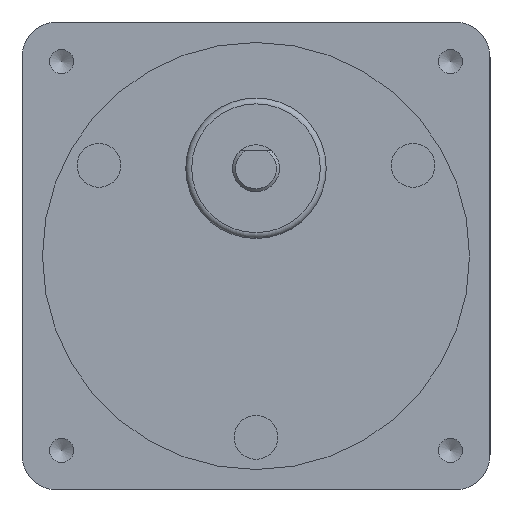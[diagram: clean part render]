
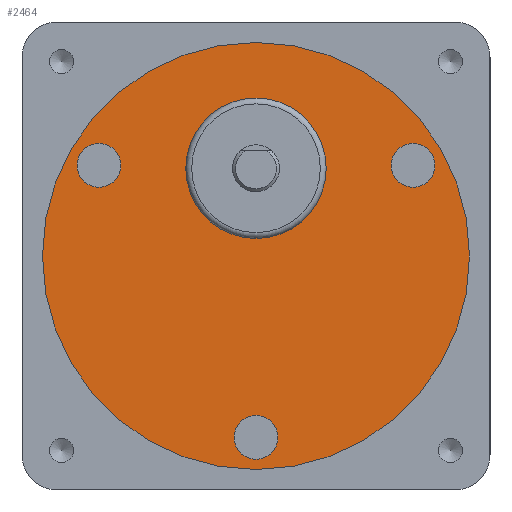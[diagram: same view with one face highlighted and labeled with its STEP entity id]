
A CAD part, front view. The second image highlights one B-rep face of the part: STEP entity #2464.
In plain terms, the highlighted planar face has unit normal (0, -1, 0).
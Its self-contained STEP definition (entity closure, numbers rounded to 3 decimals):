
#102=FACE_BOUND('',#436,.T.);
#103=FACE_BOUND('',#437,.T.);
#104=FACE_BOUND('',#438,.T.);
#105=FACE_BOUND('',#439,.T.);
#163=PLANE('',#2765);
#267=FACE_OUTER_BOUND('',#435,.T.);
#435=EDGE_LOOP('',(#1860));
#436=EDGE_LOOP('',(#1861));
#437=EDGE_LOOP('',(#1862));
#438=EDGE_LOOP('',(#1863));
#439=EDGE_LOOP('',(#1864));
#941=CIRCLE('',#2669,3.75);
#943=CIRCLE('',#2673,3.75);
#945=CIRCLE('',#2677,3.75);
#994=CIRCLE('',#2764,36.5);
#995=CIRCLE('',#2766,12.);
#1102=VERTEX_POINT('',#3809);
#1104=VERTEX_POINT('',#3816);
#1106=VERTEX_POINT('',#3823);
#1167=VERTEX_POINT('',#4121);
#1168=VERTEX_POINT('',#4125);
#1332=EDGE_CURVE('',#1102,#1102,#941,.T.);
#1335=EDGE_CURVE('',#1104,#1104,#943,.T.);
#1338=EDGE_CURVE('',#1106,#1106,#945,.T.);
#1430=EDGE_CURVE('',#1167,#1167,#994,.T.);
#1431=EDGE_CURVE('',#1168,#1168,#995,.T.);
#1860=ORIENTED_EDGE('',*,*,#1430,.T.);
#1861=ORIENTED_EDGE('',*,*,#1332,.T.);
#1862=ORIENTED_EDGE('',*,*,#1335,.T.);
#1863=ORIENTED_EDGE('',*,*,#1338,.T.);
#1864=ORIENTED_EDGE('',*,*,#1431,.F.);
#2464=ADVANCED_FACE('',(#267,#102,#103,#104,#105),#163,.F.);
#2669=AXIS2_PLACEMENT_3D('',#3810,#2992,#2993);
#2673=AXIS2_PLACEMENT_3D('',#3817,#3001,#3002);
#2677=AXIS2_PLACEMENT_3D('',#3824,#3010,#3011);
#2764=AXIS2_PLACEMENT_3D('',#4123,#3227,#3228);
#2765=AXIS2_PLACEMENT_3D('',#4124,#3229,#3230);
#2766=AXIS2_PLACEMENT_3D('',#4126,#3231,#3232);
#2992=DIRECTION('center_axis',(0.,1.,0.));
#2993=DIRECTION('ref_axis',(0.5,0.,-0.866));
#3001=DIRECTION('center_axis',(0.,1.,0.));
#3002=DIRECTION('ref_axis',(0.5,0.,0.866));
#3010=DIRECTION('center_axis',(0.,1.,0.));
#3011=DIRECTION('ref_axis',(-1.,0.,0.));
#3227=DIRECTION('center_axis',(0.,-1.,0.));
#3228=DIRECTION('ref_axis',(-1.,0.,0.));
#3229=DIRECTION('center_axis',(0.,1.,0.));
#3230=DIRECTION('ref_axis',(0.,0.,1.));
#3231=DIRECTION('center_axis',(0.,-1.,0.));
#3232=DIRECTION('ref_axis',(-1.,0.,0.));
#3809=CARTESIAN_POINT('',(24.972,0.5,18.748));
#3810=CARTESIAN_POINT('Origin',(26.847,0.5,15.5));
#3816=CARTESIAN_POINT('',(-28.722,0.5,12.252));
#3817=CARTESIAN_POINT('Origin',(-26.847,0.5,15.5));
#3823=CARTESIAN_POINT('',(3.75,0.5,-31.));
#3824=CARTESIAN_POINT('Origin',(0.,0.5,-31.));
#4121=CARTESIAN_POINT('',(36.5,0.5,0.));
#4123=CARTESIAN_POINT('Origin',(0.,0.5,0.));
#4124=CARTESIAN_POINT('Origin',(0.,0.5,0.));
#4125=CARTESIAN_POINT('',(12.,0.5,15.));
#4126=CARTESIAN_POINT('Origin',(0.,0.5,15.));
